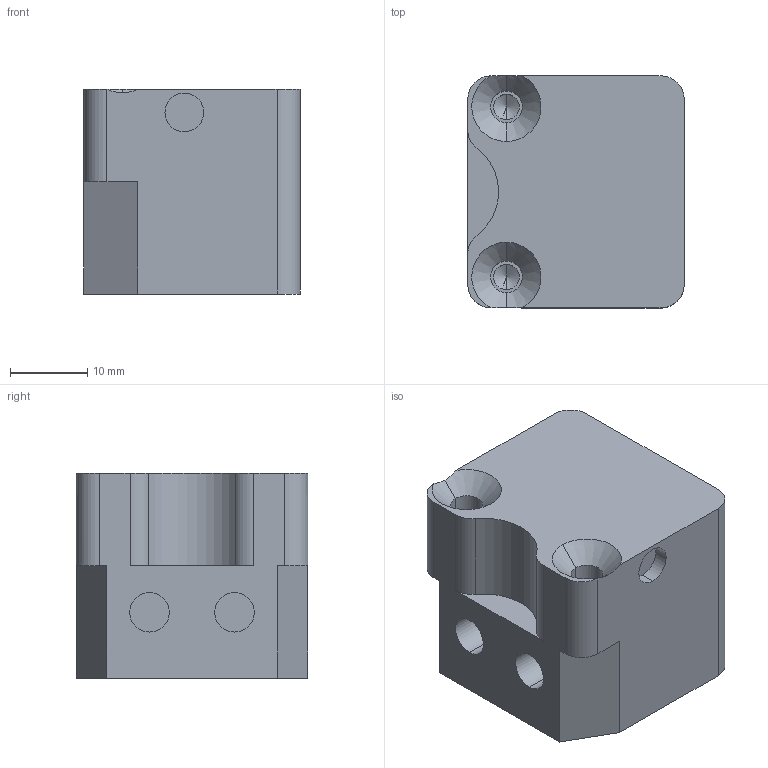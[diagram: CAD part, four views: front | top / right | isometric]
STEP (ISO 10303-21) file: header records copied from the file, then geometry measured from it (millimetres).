
FILE_DESCRIPTION(/* description */ (''),/* implementation_level */ '2;1');
FILE_NAME(/* name */ 'QCHFM-2R.stp',/* time_stamp */ '2024-04-28T13:45:48+08:00',/* author */ (''),/* organization */ (''),/* preprocessor_version */ 'ST-DEVELOPER v16.7',/* originating_system */ 'SIEMENS PLM Software NX 12.0',/* authorisation */ '');
FILE_SCHEMA (('AUTOMOTIVE_DESIGN { 1 0 10303 214 3 1 1 1 }'));
Length unit declared in the file: millimetre
Products named in the file (1): _model1
Bounding box: 28 x 30 x 26.6 mm (x, y, z)
Volume: 18383.1 mm3; surface area: 7335.3 mm2
Topology: 3 solids, 5 shells, 192 faces, 471 edges, 302 vertices
Faces by surface type: plane 113, cylinder 67, cone 12
Entity records: 5786 total; most frequent: CARTESIAN_POINT 1196, ORIENTED_EDGE 934, DIRECTION 925, EDGE_CURVE 467, AXIS2_PLACEMENT_3D 341, VERTEX_POINT 302, LINE 243, VECTOR 243
